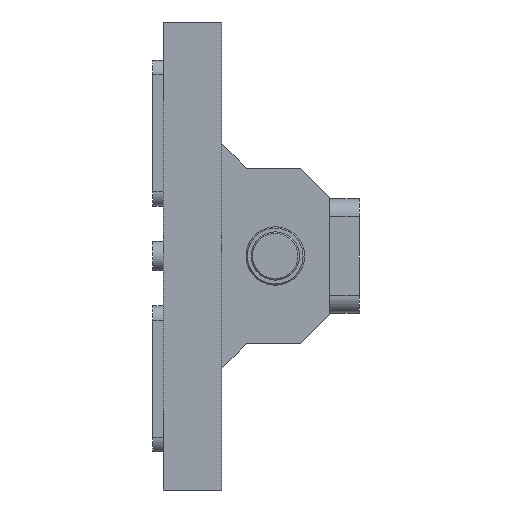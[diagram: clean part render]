
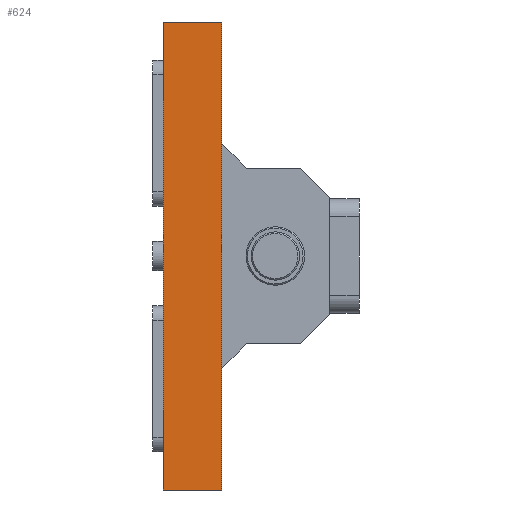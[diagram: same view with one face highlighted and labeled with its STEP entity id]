
A CAD part, left-side view. The second image highlights one B-rep face of the part: STEP entity #624.
In plain terms, the highlighted planar face has unit normal (-1, 0, 0).
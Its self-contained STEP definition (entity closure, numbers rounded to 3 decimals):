
#104 = FACE_OUTER_BOUND ( 'NONE', #1386, .T. ) ;
#469 = CARTESIAN_POINT ( 'NONE',  ( -28.5, 77., 80. ) ) ;
#547 = VERTEX_POINT ( 'NONE', #2659 ) ;
#600 = CARTESIAN_POINT ( 'NONE',  ( -28.5, 57., 80. ) ) ;
#624 = ADVANCED_FACE ( 'NONE', ( #104 ), #1046, .F. ) ;
#746 = CARTESIAN_POINT ( 'NONE',  ( -28.5, 77., -80. ) ) ;
#756 = ORIENTED_EDGE ( 'NONE', *, *, #824, .F. ) ;
#824 = EDGE_CURVE ( 'NONE', #1526, #2455, #1163, .T. ) ;
#1046 = PLANE ( 'NONE',  #1174 ) ;
#1064 = DIRECTION ( 'NONE',  ( 0., 1., 0. ) ) ;
#1073 = DIRECTION ( 'NONE',  ( 0., 0., -1. ) ) ;
#1163 = LINE ( 'NONE', #469, #2964 ) ;
#1174 = AXIS2_PLACEMENT_3D ( 'NONE', #2897, #2208, #1064 ) ;
#1364 = ORIENTED_EDGE ( 'NONE', *, *, #2344, .F. ) ;
#1386 = EDGE_LOOP ( 'NONE', ( #2278, #1647, #1364, #756 ) ) ;
#1526 = VERTEX_POINT ( 'NONE', #2267 ) ;
#1569 = LINE ( 'NONE', #2950, #2002 ) ;
#1647 = ORIENTED_EDGE ( 'NONE', *, *, #2692, .T. ) ;
#1676 = DIRECTION ( 'NONE',  ( 0., -1., 0. ) ) ;
#1755 = DIRECTION ( 'NONE',  ( 0., 0., -1. ) ) ;
#2002 = VECTOR ( 'NONE', #1073, 1000. ) ;
#2038 = EDGE_CURVE ( 'NONE', #1526, #547, #2443, .T. ) ;
#2196 = CARTESIAN_POINT ( 'NONE',  ( -28.5, 77., 80. ) ) ;
#2208 = DIRECTION ( 'NONE',  ( 1., 0., 0. ) ) ;
#2267 = CARTESIAN_POINT ( 'NONE',  ( -28.5, 77., 80. ) ) ;
#2278 = ORIENTED_EDGE ( 'NONE', *, *, #2038, .T. ) ;
#2333 = VECTOR ( 'NONE', #1676, 1000. ) ;
#2344 = EDGE_CURVE ( 'NONE', #2455, #2933, #1569, .T. ) ;
#2443 = LINE ( 'NONE', #2196, #2699 ) ;
#2455 = VERTEX_POINT ( 'NONE', #600 ) ;
#2659 = CARTESIAN_POINT ( 'NONE',  ( -28.5, 77., -80. ) ) ;
#2692 = EDGE_CURVE ( 'NONE', #547, #2933, #2826, .T. ) ;
#2699 = VECTOR ( 'NONE', #1755, 1000. ) ;
#2785 = DIRECTION ( 'NONE',  ( 0., -1., 0. ) ) ;
#2826 = LINE ( 'NONE', #746, #2333 ) ;
#2836 = CARTESIAN_POINT ( 'NONE',  ( -28.5, 57., -80. ) ) ;
#2897 = CARTESIAN_POINT ( 'NONE',  ( -28.5, 77., 80. ) ) ;
#2933 = VERTEX_POINT ( 'NONE', #2836 ) ;
#2950 = CARTESIAN_POINT ( 'NONE',  ( -28.5, 57., 80. ) ) ;
#2964 = VECTOR ( 'NONE', #2785, 1000. ) ;
